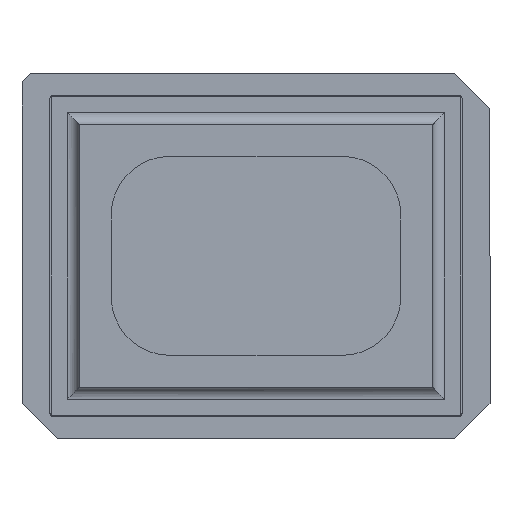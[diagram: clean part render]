
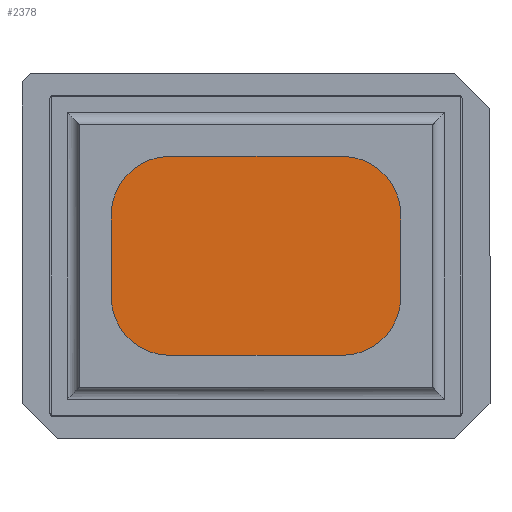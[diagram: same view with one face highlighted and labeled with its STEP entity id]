
A CAD part, top view. The second image highlights one B-rep face of the part: STEP entity #2378.
In plain terms, the highlighted planar face has unit normal (0, 0, 1).
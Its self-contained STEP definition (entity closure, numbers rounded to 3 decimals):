
#2276=CARTESIAN_POINT('',(7.493,8.636,2.997));
#2277=VERTEX_POINT('',#2276);
#2278=CARTESIAN_POINT('',(12.573,3.556,2.997));
#2279=VERTEX_POINT('',#2278);
#2280=CARTESIAN_POINT('',(7.493,3.556,2.997));
#2281=DIRECTION('',(0.0,0.0,-1.));
#2282=DIRECTION('',(0.707,0.707,0.0));
#2283=AXIS2_PLACEMENT_3D('',#2280,#2281,#2282);
#2284=CIRCLE('',#2283,5.08);
#2285=EDGE_CURVE('',#2277,#2279,#2284,.T.);
#2313=CARTESIAN_POINT('',(0.,0.0,2.997));
#2314=DIRECTION('',(0.0,0.0,1.0));
#2315=DIRECTION('',(1.0,0.0,0.0));
#2316=AXIS2_PLACEMENT_3D('',#2313,#2314,#2315);
#2317=PLANE('',#2316);
#2318=ORIENTED_EDGE('',*,*,#2285,.F.);
#2319=CARTESIAN_POINT('',(-7.493,8.636,2.997));
#2320=VERTEX_POINT('',#2319);
#2321=CARTESIAN_POINT('',(-7.493,8.636,2.997));
#2322=DIRECTION('',(1.0,0.0,0.0));
#2323=VECTOR('',#2322,14.986);
#2324=LINE('',#2321,#2323);
#2325=EDGE_CURVE('',#2320,#2277,#2324,.T.);
#2326=ORIENTED_EDGE('',*,*,#2325,.F.);
#2327=CARTESIAN_POINT('',(-12.573,3.556,2.997));
#2328=VERTEX_POINT('',#2327);
#2329=CARTESIAN_POINT('',(-7.493,3.556,2.997));
#2330=DIRECTION('',(0.0,0.0,-1.0));
#2331=DIRECTION('',(-0.707,0.707,0.0));
#2332=AXIS2_PLACEMENT_3D('',#2329,#2330,#2331);
#2333=CIRCLE('',#2332,5.08);
#2334=EDGE_CURVE('',#2328,#2320,#2333,.T.);
#2335=ORIENTED_EDGE('',*,*,#2334,.F.);
#2336=CARTESIAN_POINT('',(-12.573,-3.556,2.997));
#2337=VERTEX_POINT('',#2336);
#2338=CARTESIAN_POINT('',(-12.573,-3.556,2.997));
#2339=DIRECTION('',(0.0,1.0,0.0));
#2340=VECTOR('',#2339,7.112);
#2341=LINE('',#2338,#2340);
#2342=EDGE_CURVE('',#2337,#2328,#2341,.T.);
#2343=ORIENTED_EDGE('',*,*,#2342,.F.);
#2344=CARTESIAN_POINT('',(-7.493,-8.636,2.997));
#2345=VERTEX_POINT('',#2344);
#2346=CARTESIAN_POINT('',(-7.493,-3.556,2.997));
#2347=DIRECTION('',(0.0,0.0,-1.0));
#2348=DIRECTION('',(-0.707,-0.707,0.0));
#2349=AXIS2_PLACEMENT_3D('',#2346,#2347,#2348);
#2350=CIRCLE('',#2349,5.08);
#2351=EDGE_CURVE('',#2345,#2337,#2350,.T.);
#2352=ORIENTED_EDGE('',*,*,#2351,.F.);
#2353=CARTESIAN_POINT('',(7.493,-8.636,2.997));
#2354=VERTEX_POINT('',#2353);
#2355=CARTESIAN_POINT('',(7.493,-8.636,2.997));
#2356=DIRECTION('',(-1.0,0.0,0.0));
#2357=VECTOR('',#2356,14.986);
#2358=LINE('',#2355,#2357);
#2359=EDGE_CURVE('',#2354,#2345,#2358,.T.);
#2360=ORIENTED_EDGE('',*,*,#2359,.F.);
#2361=CARTESIAN_POINT('',(12.573,-3.556,2.997));
#2362=VERTEX_POINT('',#2361);
#2363=CARTESIAN_POINT('',(7.493,-3.556,2.997));
#2364=DIRECTION('',(0.0,0.0,-1.0));
#2365=DIRECTION('',(0.707,-0.707,0.0));
#2366=AXIS2_PLACEMENT_3D('',#2363,#2364,#2365);
#2367=CIRCLE('',#2366,5.08);
#2368=EDGE_CURVE('',#2362,#2354,#2367,.T.);
#2369=ORIENTED_EDGE('',*,*,#2368,.F.);
#2370=CARTESIAN_POINT('',(12.573,3.556,2.997));
#2371=DIRECTION('',(0.0,-1.0,0.0));
#2372=VECTOR('',#2371,7.112);
#2373=LINE('',#2370,#2372);
#2374=EDGE_CURVE('',#2279,#2362,#2373,.T.);
#2375=ORIENTED_EDGE('',*,*,#2374,.F.);
#2376=EDGE_LOOP('',(#2318,#2326,#2335,#2343,#2352,#2360,#2369,#2375));
#2377=FACE_OUTER_BOUND('',#2376,.T.);
#2378=ADVANCED_FACE('',(#2377),#2317,.T.);
